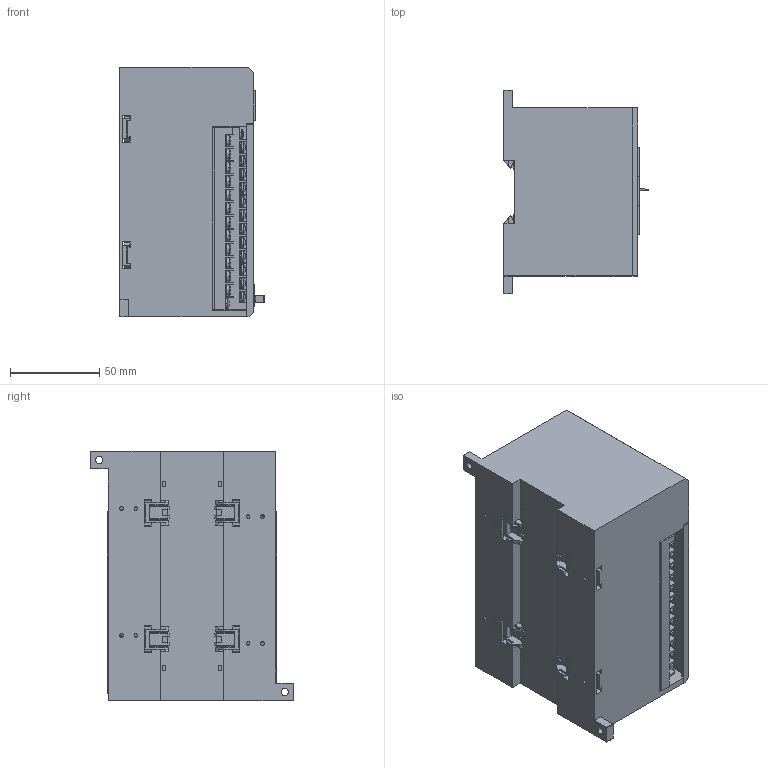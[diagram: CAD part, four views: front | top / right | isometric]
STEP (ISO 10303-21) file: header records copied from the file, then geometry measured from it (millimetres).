
FILE_DESCRIPTION (( 'STEP AP214' ), '1' );
FILE_NAME ('3D ìîäåëü ÏËÊ110-32_M02.STEP', '2016-07-18T20:18:14', ( '' ), ( '' ), 'SwSTEP 2.0', 'SolidWorks 2011', '' );
FILE_SCHEMA (( 'AUTOMOTIVE_DESIGN' ));
Length unit declared in the file: millimetre
Products named in the file (15): 3D ìîäåëü ÏËÊ110-32_M02; USB A; Ïåðåêëþ÷àòåëü; Êðûøêà ïðîçðà÷íàÿ ÏËÊ110-32_Ì02_í; RS-232_DEBUG; Êðûøêà ïðîçðà÷íàÿ ÏËÊ110-32_Ì02; ﾔ韭ﾌ02_00; Ethernet; USB ðîçåòêà; Ñáîðêà êëåììíàÿ êîëîäêà; pan head cross recess screw_iso_ISO 7045 - M3 x 20 - Z --- 20N; pan head cross recess screw_iso_ISO 7045 - M3 x 10 - Z --- 10N; Øàéáà êâàäðàòíàÿ Ì3; Êëåììíàÿ êîëîäêà; Êîðïóñ ÏËÊ110-32_Ì02
Assembly tree (66 placements, depth 3):
  3D ìîäåëü ÏËÊ110-32_M02
    Êîðïóñ ÏËÊ110-32_Ì02
    Ñáîðêà êëåììíàÿ êîëîäêà  x2
      Êëåììíàÿ êîëîäêà
      Øàéáà êâàäðàòíàÿ Ì3
      pan head cross recess screw_iso_ISO 7045 - M3 x 10 - Z --- 10N
      pan head cross recess screw_iso_ISO 7045 - M3 x 20 - Z --- 20N
    USB ðîçåòêà
    Ethernet
    ﾔ韭ﾌ02_00  x4
    Êðûøêà ïðîçðà÷íàÿ ÏËÊ110-32_Ì02
    RS-232_DEBUG  x2
    Êðûøêà ïðîçðà÷íàÿ ÏËÊ110-32_Ì02_í
    Ïåðåêëþ÷àòåëü
    USB A
Bounding box: 81 x 114 x 140 mm (x, y, z)
Volume: 966117.5 mm3; surface area: 145514.1 mm2
Topology: 115 solids, 115 shells, 6506 faces, 16347 edges, 10385 vertices
Faces by surface type: plane 3991, bspline 887, cylinder 742, cone 574, torus 208, sphere 104
Entity records: 138048 total; most frequent: CARTESIAN_POINT 29937, ORIENTED_EDGE 17848, DIRECTION 12690, EDGE_CURVE 8924, VECTOR 6686, LINE 6686, VERTEX_POINT 5905, EDGE_LOOP 3771
